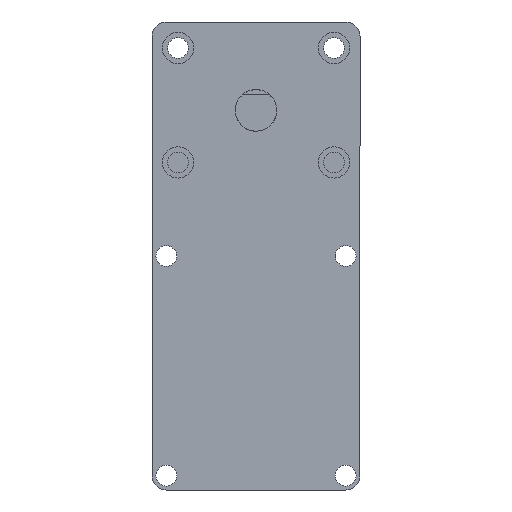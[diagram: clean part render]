
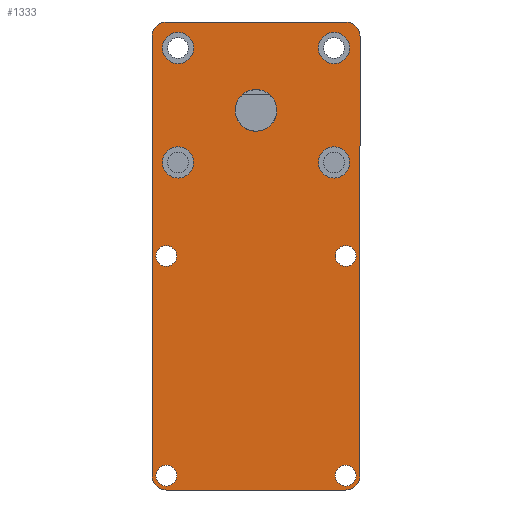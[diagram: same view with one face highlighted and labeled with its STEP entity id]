
A CAD part, front view. The second image highlights one B-rep face of the part: STEP entity #1333.
In plain terms, the highlighted planar face has unit normal (0, -1, 0).
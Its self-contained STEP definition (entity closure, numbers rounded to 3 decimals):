
#151=CARTESIAN_POINT('',(-11.,0.0,-11.));
#152=VERTEX_POINT('',#151);
#153=CARTESIAN_POINT('',(-15.,0.0,-11.));
#154=DIRECTION('',(0.0,1.0,0.0));
#155=DIRECTION('',(-1.0,0.0,0.0));
#156=AXIS2_PLACEMENT_3D('',#153,#154,#155);
#157=CIRCLE('',#156,4.0);
#158=EDGE_CURVE('',#152,#152,#157,.T.);
#168=CARTESIAN_POINT('',(4.25,0.0,-39.0));
#169=VERTEX_POINT('',#168);
#170=CARTESIAN_POINT('',(2.25,0.0,-39.0));
#171=DIRECTION('',(0.0,1.0,0.0));
#172=DIRECTION('',(-1.0,0.0,0.0));
#173=AXIS2_PLACEMENT_3D('',#170,#171,#172);
#174=CIRCLE('',#173,2.0);
#175=EDGE_CURVE('',#169,#169,#174,.T.);
#196=CARTESIAN_POINT('',(-30.25,0.0,-39.));
#197=VERTEX_POINT('',#196);
#198=CARTESIAN_POINT('',(-32.25,0.0,-39.));
#199=DIRECTION('',(0.0,1.0,0.0));
#200=DIRECTION('',(-1.0,0.0,0.0));
#201=AXIS2_PLACEMENT_3D('',#198,#199,#200);
#202=CIRCLE('',#201,2.0);
#203=EDGE_CURVE('',#197,#197,#202,.T.);
#224=CARTESIAN_POINT('',(4.25,0.0,-81.25));
#225=VERTEX_POINT('',#224);
#226=CARTESIAN_POINT('',(2.25,0.0,-81.25));
#227=DIRECTION('',(0.0,1.0,0.0));
#228=DIRECTION('',(-1.0,0.0,0.0));
#229=AXIS2_PLACEMENT_3D('',#226,#227,#228);
#230=CIRCLE('',#229,2.0);
#231=EDGE_CURVE('',#225,#225,#230,.T.);
#252=CARTESIAN_POINT('',(-30.25,0.0,-81.25));
#253=VERTEX_POINT('',#252);
#254=CARTESIAN_POINT('',(-32.25,0.0,-81.25));
#255=DIRECTION('',(0.0,1.0,0.0));
#256=DIRECTION('',(-1.0,0.0,0.0));
#257=AXIS2_PLACEMENT_3D('',#254,#255,#256);
#258=CIRCLE('',#257,2.0);
#259=EDGE_CURVE('',#253,#253,#258,.T.);
#291=CARTESIAN_POINT('',(-32.25,0.0,-84.0));
#292=VERTEX_POINT('',#291);
#299=CARTESIAN_POINT('',(-35.,0.0,-81.25));
#300=VERTEX_POINT('',#299);
#301=CARTESIAN_POINT('',(-32.25,0.0,-81.25));
#302=DIRECTION('',(0.0,1.0,0.0));
#303=DIRECTION('',(-0.707,0.0,-0.707));
#304=AXIS2_PLACEMENT_3D('',#301,#302,#303);
#305=CIRCLE('',#304,2.75);
#306=EDGE_CURVE('',#292,#300,#305,.T.);
#331=CARTESIAN_POINT('',(2.25,0.0,-84.0));
#332=VERTEX_POINT('',#331);
#339=CARTESIAN_POINT('',(2.25,0.0,-84.0));
#340=DIRECTION('',(-1.0,0.0,0.0));
#341=VECTOR('',#340,34.5);
#342=LINE('',#339,#341);
#343=EDGE_CURVE('',#332,#292,#342,.T.);
#458=CARTESIAN_POINT('',(-35.0,0.0,3.25));
#459=VERTEX_POINT('',#458);
#466=CARTESIAN_POINT('',(-32.25,0.0,6.));
#467=VERTEX_POINT('',#466);
#468=CARTESIAN_POINT('',(-32.25,0.0,3.25));
#469=DIRECTION('',(0.0,1.0,0.0));
#470=DIRECTION('',(-0.707,0.0,0.707));
#471=AXIS2_PLACEMENT_3D('',#468,#469,#470);
#472=CIRCLE('',#471,2.75);
#473=EDGE_CURVE('',#459,#467,#472,.T.);
#490=CARTESIAN_POINT('',(2.25,0.0,6.));
#491=VERTEX_POINT('',#490);
#492=CARTESIAN_POINT('',(-32.25,0.0,6.));
#493=DIRECTION('',(1.0,0.0,0.0));
#494=VECTOR('',#493,34.5);
#495=LINE('',#492,#494);
#496=EDGE_CURVE('',#467,#491,#495,.T.);
#515=CARTESIAN_POINT('',(5.,0.0,3.25));
#516=VERTEX_POINT('',#515);
#517=CARTESIAN_POINT('',(2.25,0.0,3.25));
#518=DIRECTION('',(0.0,1.0,0.0));
#519=DIRECTION('',(0.707,0.0,0.707));
#520=AXIS2_PLACEMENT_3D('',#517,#518,#519);
#521=CIRCLE('',#520,2.75);
#522=EDGE_CURVE('',#491,#516,#521,.T.);
#539=CARTESIAN_POINT('',(5.,0.0,-81.25));
#540=VERTEX_POINT('',#539);
#547=CARTESIAN_POINT('',(2.25,0.0,-81.25));
#548=DIRECTION('',(0.0,1.0,0.0));
#549=DIRECTION('',(0.707,0.0,-0.707));
#550=AXIS2_PLACEMENT_3D('',#547,#548,#549);
#551=CIRCLE('',#550,2.75);
#552=EDGE_CURVE('',#540,#332,#551,.T.);
#1033=CARTESIAN_POINT('',(-27.,0.0,-21.));
#1034=VERTEX_POINT('',#1033);
#1035=CARTESIAN_POINT('',(-30.,0.0,-21.));
#1036=DIRECTION('',(0.0,1.0,0.0));
#1037=DIRECTION('',(-1.0,0.0,0.0));
#1038=AXIS2_PLACEMENT_3D('',#1035,#1036,#1037);
#1039=CIRCLE('',#1038,3.0);
#1040=EDGE_CURVE('',#1034,#1034,#1039,.T.);
#1081=CARTESIAN_POINT('',(3.,0.0,-21.));
#1082=VERTEX_POINT('',#1081);
#1083=CARTESIAN_POINT('',(0.,0.0,-21.));
#1084=DIRECTION('',(0.0,1.0,0.0));
#1085=DIRECTION('',(-1.0,0.0,0.0));
#1086=AXIS2_PLACEMENT_3D('',#1083,#1084,#1085);
#1087=CIRCLE('',#1086,3.0);
#1088=EDGE_CURVE('',#1082,#1082,#1087,.T.);
#1129=CARTESIAN_POINT('',(3.,0.0,1.));
#1130=VERTEX_POINT('',#1129);
#1131=CARTESIAN_POINT('',(0.,0.0,1.));
#1132=DIRECTION('',(0.0,1.0,0.0));
#1133=DIRECTION('',(-1.0,0.0,0.0));
#1134=AXIS2_PLACEMENT_3D('',#1131,#1132,#1133);
#1135=CIRCLE('',#1134,3.0);
#1136=EDGE_CURVE('',#1130,#1130,#1135,.T.);
#1177=CARTESIAN_POINT('',(-27.,0.0,1.));
#1178=VERTEX_POINT('',#1177);
#1179=CARTESIAN_POINT('',(-30.,0.0,1.));
#1180=DIRECTION('',(0.0,1.0,0.0));
#1181=DIRECTION('',(-1.0,0.0,0.0));
#1182=AXIS2_PLACEMENT_3D('',#1179,#1180,#1181);
#1183=CIRCLE('',#1182,3.0);
#1184=EDGE_CURVE('',#1178,#1178,#1183,.T.);
#1263=CARTESIAN_POINT('',(5.,0.0,3.25));
#1264=DIRECTION('',(0.0,0.0,-1.0));
#1265=VECTOR('',#1264,84.5);
#1266=LINE('',#1263,#1265);
#1267=EDGE_CURVE('',#516,#540,#1266,.T.);
#1280=CARTESIAN_POINT('',(-35.,0.0,-81.25));
#1281=DIRECTION('',(0.0,0.0,1.0));
#1282=VECTOR('',#1281,84.5);
#1283=LINE('',#1280,#1282);
#1284=EDGE_CURVE('',#300,#459,#1283,.T.);
#1291=CARTESIAN_POINT('',(-15.,0.0,-39.));
#1292=DIRECTION('',(0.0,1.0,0.0));
#1293=DIRECTION('',(0.0,0.0,1.0));
#1294=AXIS2_PLACEMENT_3D('',#1291,#1292,#1293);
#1295=PLANE('',#1294);
#1296=ORIENTED_EDGE('',*,*,#306,.F.);
#1297=ORIENTED_EDGE('',*,*,#343,.F.);
#1298=ORIENTED_EDGE('',*,*,#552,.F.);
#1299=ORIENTED_EDGE('',*,*,#1267,.F.);
#1300=ORIENTED_EDGE('',*,*,#522,.F.);
#1301=ORIENTED_EDGE('',*,*,#496,.F.);
#1302=ORIENTED_EDGE('',*,*,#473,.F.);
#1303=ORIENTED_EDGE('',*,*,#1284,.F.);
#1304=EDGE_LOOP('',(#1296,#1297,#1298,#1299,#1300,#1301,#1302,#1303));
#1305=FACE_OUTER_BOUND('',#1304,.T.);
#1306=ORIENTED_EDGE('',*,*,#158,.T.);
#1307=EDGE_LOOP('',(#1306));
#1308=FACE_BOUND('',#1307,.T.);
#1309=ORIENTED_EDGE('',*,*,#175,.T.);
#1310=EDGE_LOOP('',(#1309));
#1311=FACE_BOUND('',#1310,.T.);
#1312=ORIENTED_EDGE('',*,*,#203,.T.);
#1313=EDGE_LOOP('',(#1312));
#1314=FACE_BOUND('',#1313,.T.);
#1315=ORIENTED_EDGE('',*,*,#231,.T.);
#1316=EDGE_LOOP('',(#1315));
#1317=FACE_BOUND('',#1316,.T.);
#1318=ORIENTED_EDGE('',*,*,#259,.T.);
#1319=EDGE_LOOP('',(#1318));
#1320=FACE_BOUND('',#1319,.T.);
#1321=ORIENTED_EDGE('',*,*,#1040,.T.);
#1322=EDGE_LOOP('',(#1321));
#1323=FACE_BOUND('',#1322,.T.);
#1324=ORIENTED_EDGE('',*,*,#1088,.T.);
#1325=EDGE_LOOP('',(#1324));
#1326=FACE_BOUND('',#1325,.T.);
#1327=ORIENTED_EDGE('',*,*,#1136,.T.);
#1328=EDGE_LOOP('',(#1327));
#1329=FACE_BOUND('',#1328,.T.);
#1330=ORIENTED_EDGE('',*,*,#1184,.T.);
#1331=EDGE_LOOP('',(#1330));
#1332=FACE_BOUND('',#1331,.T.);
#1333=ADVANCED_FACE('',(#1305,#1308,#1311,#1314,#1317,#1320,#1323,#1326,#1329,#1332),#1295,.F.);
